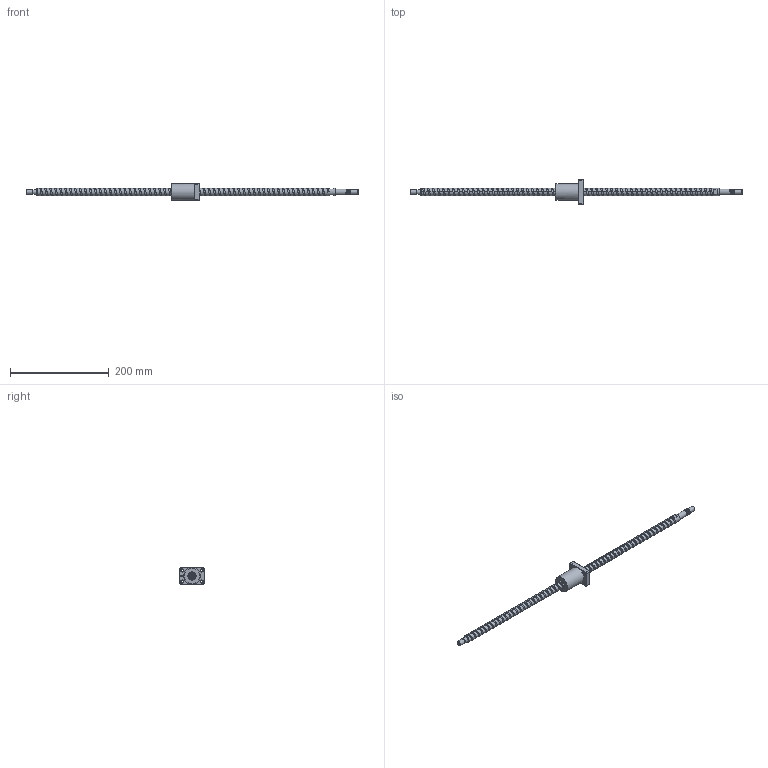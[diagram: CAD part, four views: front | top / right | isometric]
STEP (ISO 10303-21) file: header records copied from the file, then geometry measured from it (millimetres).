
FILE_DESCRIPTION (( 'STEP AP203' ), '1' );
FILE_NAME ('XSVR01510B1DGC5-671-P1.step', '2024-06-03T05:10:42', ( '' ), ( '' ), 'SwSTEP 2.0', 'SolidWorks 2022', '' );
FILE_SCHEMA (( 'CONFIG_CONTROL_DESIGN' ));
Length unit declared in the file: millimetre
Products named in the file (1): XSVR01510B1DGC5-671-P1
Bounding box: 671 x 50 x 34 mm (x, y, z)
Volume: 148992.6 mm3; surface area: 47422.6 mm2
Topology: 2 solids, 2 shells, 189 faces, 515 edges, 336 vertices
Faces by surface type: cylinder 112, plane 43, cone 15, bspline 10, torus 9
Full cylindrical faces by diameter (mm): 4 x1, 4.2 x15, 5 x6, 5.5 x4, 9.5 x4, 9.6 x1, 10 x3, 12 x9, 15 x59, 16.7 x1, 34 x1
Entity records: 19016 total; most frequent: CARTESIAN_POINT 16892, ORIENTED_EDGE 402, DIRECTION 391, EDGE_CURVE 201, AXIS2_PLACEMENT_3D 168, EDGE_LOOP 153, VERTEX_POINT 146, FACE_OUTER_BOUND 120
